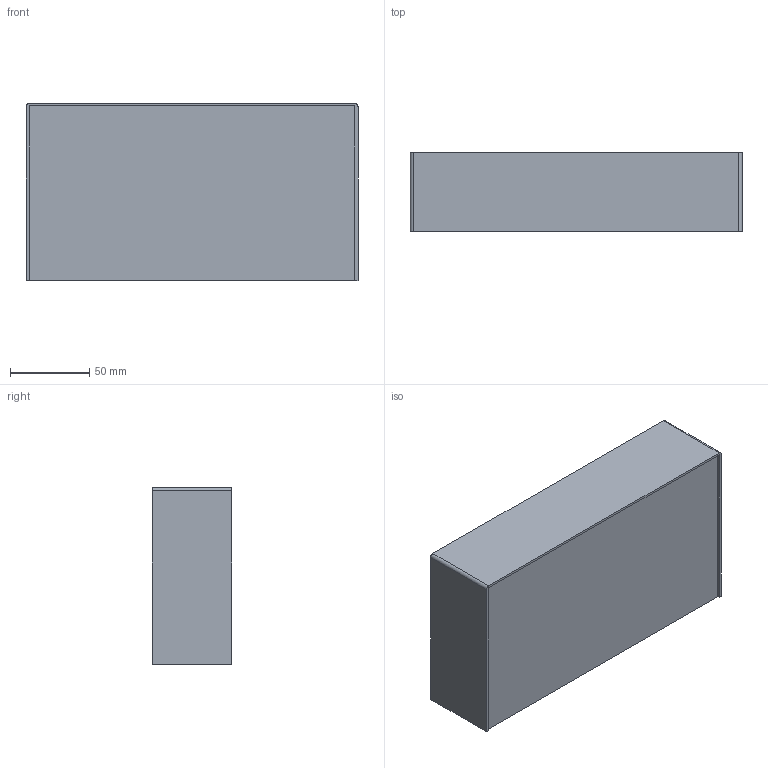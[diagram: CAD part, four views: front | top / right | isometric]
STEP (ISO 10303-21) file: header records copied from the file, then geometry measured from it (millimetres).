
FILE_DESCRIPTION(/* description */ ('CORNICE ESTERNA - JULIET'),/* implementation_level */ '2;1');
FILE_NAME(/* name */ 'C:\Users\Giulia\Desktop\1726 - JULIET.stp',/* time_stamp */ '2015-04-24T14:26:00+02:00',/* author */ ('Giulia'),/* organization */ (''),/* preprocessor_version */ 'ST-DEVELOPER v15.6',/* originating_system */ 'Autodesk Inventor 2015',/* authorisation */ '');
FILE_SCHEMA (('AUTOMOTIVE_DESIGN { 1 0 10303 214 3 1 1 }'));
Length unit declared in the file: millimetre
Products named in the file (1): 1726 - JULIET
Bounding box: 210 x 50 x 112 mm (x, y, z)
Volume: 1095977.5 mm3; surface area: 81151 mm2
Topology: 1 solids, 1 shells, 23 faces, 60 edges, 40 vertices
Faces by surface type: plane 19, cylinder 4
Entity records: 726 total; most frequent: CARTESIAN_POINT 124, ORIENTED_EDGE 120, DIRECTION 116, EDGE_CURVE 60, LINE 52, VECTOR 52, VERTEX_POINT 40, AXIS2_PLACEMENT_3D 32
